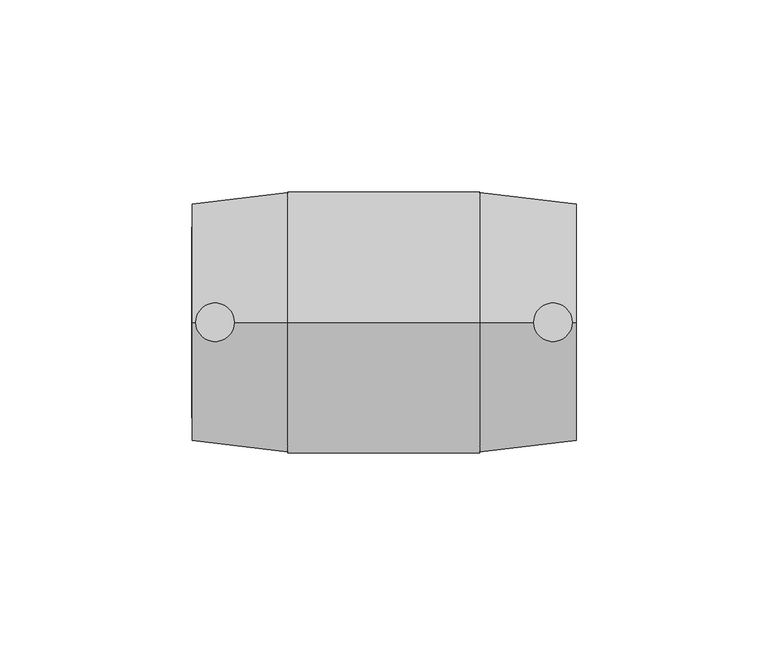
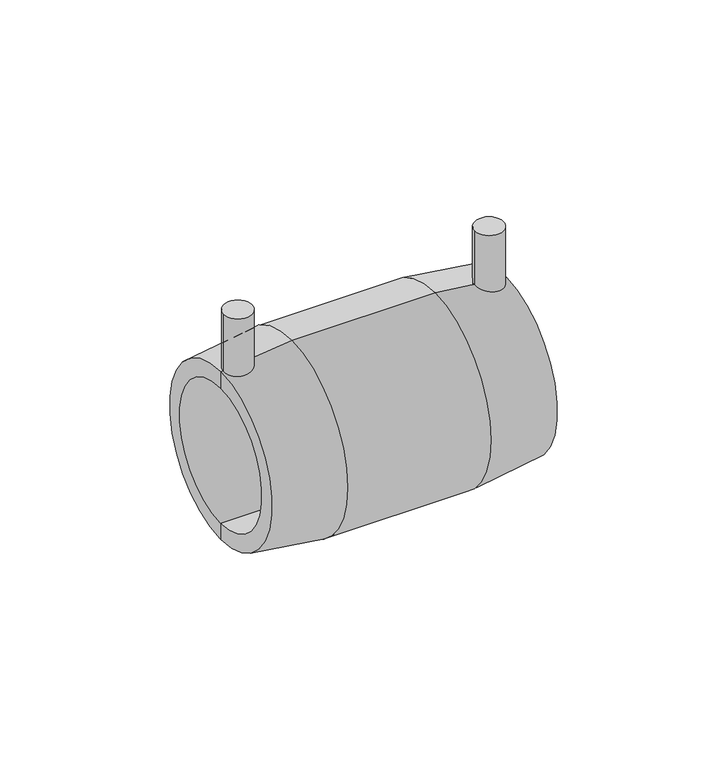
"""IFC4 building model written with IfcOpenShell, lengths in millimetres: pipe fitting geometry, Plumbing_Pipe-Fittings_Plasson_Coupler_450104 : Plumbing_Pipe-Fittings_Plasson_Coupler_450104."""

import ifcopenshell
import ifcopenshell.guid

model = None  # the IFC model being written
_history = None  # IfcOwnerHistory: only IFC2X3 demands one
_inside = {}  # id of a spatial element -> (the spatial element, [elements in it])
_under = {}  # id of a project, library or spatial element -> (it, [spatial elements below it])
_declared = {}  # id of a project -> (the project, [libraries it declares])
_typed = {}  # id of a type object -> (the type object, [elements of that type])
_made_of = {}  # id of a material, layer set ... -> (it, [elements and type objects made of it])


def new_model(schema):
    """Start an empty IFC model of exactly this schema.

    Asked for "IFC4X3", IfcOpenShell would pick the latest addendum, in which some entities
    have other attributes; the version numbers below select the first issue.
    IFC2X3 requires an IfcOwnerHistory on every rooted entity: one is made here for all.
    """
    global model, _history
    if schema == "IFC4X3":
        model = ifcopenshell.file(schema_version=(4, 3, 0, 0))
    else:
        model = ifcopenshell.file(schema=schema)
    _inside.clear()
    _under.clear()
    _declared.clear()
    _typed.clear()
    _made_of.clear()
    _history = None
    if model.schema == "IFC2X3":
        org = make("IfcOrganization", Name="unknown")
        user = make(
            "IfcPersonAndOrganization",
            ThePerson=make("IfcPerson", FamilyName="unknown"),
            TheOrganization=org,
        )
        app = make(
            "IfcApplication",
            ApplicationDeveloper=org,
            Version="unknown",
            ApplicationFullName="unknown",
            ApplicationIdentifier="unknown",
        )
        _history = make(
            "IfcOwnerHistory",
            OwningUser=user,
            OwningApplication=app,
            ChangeAction="ADDED",
            CreationDate=0,
        )
    return model


def make(cls, **values):
    """One entity of the class cls with the attributes given. An attribute that is None is left unset."""
    return model.create_entity(
        cls, **{name: value for name, value in values.items() if value is not None}
    )


def rooted(cls, **values):
    """An entity with a GlobalId (a new one), such as an element, a storey or a relation."""
    return make(cls, GlobalId=ifcopenshell.guid.new(), OwnerHistory=_history, **values)


def si_unit(unit_type, name, prefix=None):
    """IfcSIUnit, for example si_unit("LENGTHUNIT", "METRE", prefix="MILLI")."""
    return make("IfcSIUnit", UnitType=unit_type, Prefix=prefix, Name=name)


def assignment(units):
    """IfcUnitAssignment: the units of a project."""
    return None if units is None else make("IfcUnitAssignment", Units=units)


def point(xyz):
    """IfcCartesianPoint."""
    return None if xyz is None else make("IfcCartesianPoint", Coordinates=xyz)


def direction(xyz):
    """IfcDirection."""
    return None if xyz is None else make("IfcDirection", DirectionRatios=xyz)


def frame(location, z_axis=None, x_axis=None):
    """IfcAxis2Placement3D, a coordinate frame: its origin and axes. An axis left out is left unset."""
    return make(
        "IfcAxis2Placement3D",
        Location=point(location),
        Axis=direction(z_axis),
        RefDirection=direction(x_axis),
    )


def frame_2d(location, x_axis=None):
    """IfcAxis2Placement2D, a coordinate frame in the plane: its origin and x axis."""
    return make(
        "IfcAxis2Placement2D", Location=point(location), RefDirection=direction(x_axis)
    )


def origin():
    """The frame at (0, 0, 0) with its axes left unset."""
    return frame((0.0, 0.0, 0.0))


def place(relative_to, where):
    """IfcLocalPlacement: puts the frame where relative to a parent placement (None: the world)."""
    return make(
        "IfcLocalPlacement", PlacementRelTo=relative_to, RelativePlacement=where
    )


def context(
    kind, dimensions, precision=None, world=None, true_north=None, identifier=None
):
    """IfcGeometricRepresentationContext, for example the 3D "Model" context."""
    return make(
        "IfcGeometricRepresentationContext",
        ContextIdentifier=identifier,
        ContextType=kind,
        CoordinateSpaceDimension=dimensions,
        Precision=precision,
        WorldCoordinateSystem=world,
        TrueNorth=true_north,
    )


def project(units=None, contexts=None):
    """IfcProject with its units and contexts."""
    return rooted(
        "IfcProject",
        Name="project",
        RepresentationContexts=contexts,
        UnitsInContext=assignment(units),
    )


def spatial(cls, under=None, at=None, **own):
    """A site, building, storey or space (cls), placed at a placement, below another one or the project."""
    s = rooted(cls, ObjectPlacement=at, **own)
    if under is not None:
        _under.setdefault(under.id(), (under, []))[1].append(s)
    return s


def polyline(points):
    """IfcPolyline through the points."""
    return make("IfcPolyline", Points=[point(p) for p in points])


def circle_curve(where, radius):
    """IfcCircle in the frame where."""
    return make("IfcCircle", Position=where, Radius=radius)


def trimmed(basis, trim1, trim2, sense, master):
    """IfcTrimmedCurve: the piece of a basis curve between two trims."""
    return make(
        "IfcTrimmedCurve",
        BasisCurve=basis,
        Trim1=trim1,
        Trim2=trim2,
        SenseAgreement=sense,
        MasterRepresentation=master,
    )


def segment(curve, same_sense, transition):
    """IfcCompositeCurveSegment."""
    return make(
        "IfcCompositeCurveSegment",
        Transition=transition,
        SameSense=same_sense,
        ParentCurve=curve,
    )


def composite_curve(segments, self_intersect=None):
    """IfcCompositeCurve: segments joined end to end."""
    return make("IfcCompositeCurve", Segments=segments, SelfIntersect=self_intersect)


def outline(outer, holes=None, kind="AREA"):
    """IfcArbitraryClosedProfileDef: a profile drawn as a closed curve; with holes, ...WithVoids."""
    if holes is None:
        return make("IfcArbitraryClosedProfileDef", ProfileType=kind, OuterCurve=outer)
    return make(
        "IfcArbitraryProfileDefWithVoids",
        ProfileType=kind,
        OuterCurve=outer,
        InnerCurves=holes,
    )


def extrude(swept, where, along, depth):
    """IfcExtrudedAreaSolid: the profile swept, set in the frame where, extruded along a direction by depth."""
    return make(
        "IfcExtrudedAreaSolid",
        SweptArea=swept,
        Position=where,
        ExtrudedDirection=direction(along),
        Depth=depth,
    )


def shape(context_of_items, identifier, shape_type, items):
    """IfcShapeRepresentation: the items that make up one representation, for example the "Body"."""
    return make(
        "IfcShapeRepresentation",
        ContextOfItems=context_of_items,
        RepresentationIdentifier=identifier,
        RepresentationType=shape_type,
        Items=items,
    )


def source(mapping_origin, context_of_items, identifier, shape_type, items):
    """IfcRepresentationMap: a shape defined once, which mapped items show again and again."""
    return make(
        "IfcRepresentationMap",
        MappingOrigin=mapping_origin,
        MappedRepresentation=shape(context_of_items, identifier, shape_type, items),
    )


def transform(
    local_origin,
    x_axis=None,
    y_axis=None,
    z_axis=None,
    scale=None,
    scale2=None,
    scale3=None,
    uniform=True,
):
    """IfcCartesianTransformationOperator3D, or its non-uniform kind. x_axis, y_axis, z_axis: its Axis1, 2, 3."""
    if uniform:
        return make(
            "IfcCartesianTransformationOperator3D",
            Axis1=direction(x_axis),
            Axis2=direction(y_axis),
            LocalOrigin=point(local_origin),
            Scale=scale,
            Axis3=direction(z_axis),
        )
    return make(
        "IfcCartesianTransformationOperator3DnonUniform",
        Axis1=direction(x_axis),
        Axis2=direction(y_axis),
        LocalOrigin=point(local_origin),
        Scale=scale,
        Axis3=direction(z_axis),
        Scale2=scale2,
        Scale3=scale3,
    )


def mapped(mapping_source, mapping_target):
    """IfcMappedItem: shows the shape of a source again, moved by a transform."""
    return make(
        "IfcMappedItem", MappingSource=mapping_source, MappingTarget=mapping_target
    )


def made_of(thing, what):
    """Note that an element or type object is made of a material, layer set ...; save() writes the relation."""
    if what is not None:
        _made_of.setdefault(what.id(), (what, []))[1].append(thing)
    return thing


def element(
    cls,
    number,
    at=None,
    inside=None,
    cuts=None,
    type_object=None,
    material=None,
    context=None,
    identifier="Body",
    shape_type=None,
    held_by="IfcProductDefinitionShape",
    body=None,
    shapes=None,
    **own,
):
    """One element of the class cls, such as IfcWall. Its Tag is "e" and its number.

    at: its placement. inside: the storey or other place that contains it. cuts: it is an
    opening in that element (IfcRelVoidsElement). A single representation is given by context,
    identifier, shape_type and body (its items); several are given by shapes. held_by: the class
    of the entity that holds the representations. save() writes the other relations.
    """
    e = rooted(cls, Tag="e%d" % number, ObjectPlacement=at, **own)
    if body is not None:
        shapes = [shape(context, identifier, shape_type, body)]
    if shapes is not None:
        e.Representation = make(held_by, Representations=shapes)
    if inside is not None:
        _inside.setdefault(inside.id(), (inside, []))[1].append(e)
    if cuts is not None:
        rooted(
            "IfcRelVoidsElement", RelatingBuildingElement=cuts, RelatedOpeningElement=e
        )
    if type_object is not None:
        _typed.setdefault(type_object.id(), (type_object, []))[1].append(e)
    return made_of(e, material)


def aggregate(whole, parts):
    """IfcRelAggregates: a whole, such as a stair, and the parts it consists of."""
    return rooted("IfcRelAggregates", RelatingObject=whole, RelatedObjects=parts)


def save(model, path):
    """Write the relations noted so far, then the file.

    IfcRelAggregates (storeys below a building ...), IfcRelContainedInSpatialStructure (elements
    in a storey), IfcRelDefinesByType, IfcRelAssociatesMaterial and IfcRelDeclares: one each for
    every whole, place, type object, material and project.
    """
    for whole, parts in _under.values():
        aggregate(whole, parts)
    for where, things in _inside.values():
        rooted(
            "IfcRelContainedInSpatialStructure",
            RelatedElements=things,
            RelatingStructure=where,
        )
    for kind, things in _typed.values():
        rooted("IfcRelDefinesByType", RelatedObjects=things, RelatingType=kind)
    for what, things in _made_of.values():
        rooted("IfcRelAssociatesMaterial", RelatedObjects=things, RelatingMaterial=what)
    for by, libraries in _declared.values():
        rooted("IfcRelDeclares", RelatingContext=by, RelatedDefinitions=libraries)
    model.write(path)


def plane_surface(at):
    """IfcPlane: the flat surface through the origin of the frame at, square to its z axis."""
    return make("IfcPlane", Position=at)


def cylinder_surface(at, radius):
    """IfcCylindricalSurface: all points at the distance radius from the z axis of the frame at."""
    return make("IfcCylindricalSurface", Position=at, Radius=radius)


def revolved_surface(curve, axis_point, axis_direction):
    """IfcSurfaceOfRevolution: the curve turned about the line through axis_point along axis_direction."""
    return make(
        "IfcSurfaceOfRevolution",
        SweptCurve=make("IfcArbitraryOpenProfileDef", ProfileType="CURVE", Curve=curve),
        AxisPosition=make("IfcAxis1Placement", Location=point(axis_point), Axis=direction(axis_direction)),
    )


def advanced_brep(points, edges, surfaces, faces):
    """IfcAdvancedBrep: a solid bounded by faces that lie on surfaces and meet in shared edges.

    An edge is (start, end): straight between two places in points (the first is 0);
    or (start, end, curve); or (start, end, curve, False) where it runs against its curve.
    A face is (place in surfaces, loops), or (place, loops, False) where it looks against
    its surface's normal. A loop lists edges by number (the first is 1), with a minus sign
    where the edge is run from its end to its start. The first loop is the outer one.
    """
    corners = [point(p) for p in points]
    vertices = [make("IfcVertexPoint", VertexGeometry=c) for c in corners]
    made = []
    for start, end, *more in edges:
        made.append(
            make(
                "IfcEdgeCurve",
                EdgeStart=vertices[start],
                EdgeEnd=vertices[end],
                EdgeGeometry=more[0] if more else make("IfcPolyline", Points=[corners[start], corners[end]]),
                SameSense=more[1] if len(more) > 1 else True,
            )
        )
    hull = []
    for where, loops, *sense in faces:
        bounds = []
        for j, loop in enumerate(loops):
            ring = [make("IfcOrientedEdge", EdgeElement=made[abs(k) - 1], Orientation=k > 0) for k in loop]
            bounds.append(
                make(
                    "IfcFaceOuterBound" if j == 0 else "IfcFaceBound",
                    Bound=make("IfcEdgeLoop", EdgeList=ring),
                    Orientation=True,
                )
            )
        hull.append(make("IfcAdvancedFace", Bounds=bounds, FaceSurface=surfaces[where], SameSense=sense[0] if sense else True))
    return make("IfcAdvancedBrep", Outer=make("IfcClosedShell", CfsFaces=hull))


def pipe_fitting_ede6b6a5(model_context):
    return source(origin(), model_context, "Body", "SolidModel", [
        extrude(outline(composite_curve([segment(trimmed(circle_curve(frame_2d((-44.0, 0.0)), 5.0), [point((-49.0, 0.0))], [point((-39.0, 0.0))], False, "CARTESIAN"), True, "CONTINUOUS"), segment(trimmed(circle_curve(frame_2d((-44.0, 0.0)), 5.0), [point((-39.0, 0.0))], [point((-49.0, 0.0))], False, "CARTESIAN"), True, "CONTINUOUS")], self_intersect=False)), frame((0.0, 0.0, 29.5), z_axis=(0.0, 0.0, 1.0), x_axis=(1.0, 0.0, 0.0)), (0.0, 0.0, 1.0), 22.5),
        extrude(outline(composite_curve([segment(trimmed(circle_curve(frame_2d((44.0, 0.0)), 5.0), [point((39.0, 0.0))], [point((49.0, 0.0))], False, "CARTESIAN"), True, "CONTINUOUS"), segment(trimmed(circle_curve(frame_2d((44.0, 0.0)), 5.0), [point((49.0, 0.0))], [point((39.0, 0.0))], False, "CARTESIAN"), True, "CONTINUOUS")], self_intersect=False)), frame((0.0, 0.0, 29.5), z_axis=(0.0, 0.0, 1.0), x_axis=(1.0, 0.0, 0.0)), (0.0, 0.0, 1.0), 22.5),
        advanced_brep(
        [(-1.0, 0.0, -25.0), (-1.0, 0.0, 25.0), (-50.0, 0.0, 25.0), (-50.0, 0.0, -25.0), (50.0, 0.0, -31.0), (50.0, 0.0, 31.0), (50.0, 0.0, 25.0), (50.0, 0.0, -25.0), (-25.0, 0.0, -34.0), (-25.0, 0.0, 34.0), (25.0, 0.0, 34.0), (25.0, 0.0, -34.0), (-50.0, 0.0, 31.0), (-50.0, 0.0, -31.0), (-1.0, 0.0, -22.0), (-1.0, 0.0, 22.0), (1.0, 0.0, -22.0), (1.0, 0.0, 22.0), (1.0, 0.0, -25.0), (1.0, 0.0, 25.0)],
        [
            (0, 1, circle_curve(frame((-1.0, 0.0, 0.0), z_axis=(1.0, 0.0, 0.0), x_axis=(0.0, 0.0, 1.0)), 25.0)),
            (1, 2),
            (2, 3, circle_curve(frame((-50.0, 0.0, 0.0), z_axis=(-1.0, 0.0, 0.0), x_axis=(0.0, 0.0, 1.0)), 25.0)),
            (3, 0),
            (1, 0, circle_curve(frame((-1.0, 0.0, 0.0), z_axis=(1.0, 0.0, 0.0), x_axis=(0.0, 0.0, 1.0)), 25.0)),
            (3, 2, circle_curve(frame((-50.0, 0.0, 0.0), z_axis=(-1.0, 0.0, 0.0), x_axis=(0.0, 0.0, 1.0)), 25.0)),
            (4, 5, circle_curve(frame((50.0, 0.0, 0.0), z_axis=(1.0, 0.0, 0.0), x_axis=(0.0, 0.0, 1.0)), 31.0)),
            (5, 6),
            (6, 7, circle_curve(frame((50.0, 0.0, 0.0), z_axis=(-1.0, 0.0, 0.0), x_axis=(0.0, 0.0, 1.0)), 25.0)),
            (7, 4),
            (5, 4, circle_curve(frame((50.0, 0.0, 0.0), z_axis=(1.0, 0.0, 0.0), x_axis=(0.0, 0.0, 1.0)), 31.0)),
            (7, 6, circle_curve(frame((50.0, 0.0, 0.0), z_axis=(-1.0, 0.0, 0.0), x_axis=(0.0, 0.0, 1.0)), 25.0)),
            (8, 9, circle_curve(frame((-25.0, 0.0, 0.0), z_axis=(1.0, 0.0, 0.0), x_axis=(0.0, 0.0, 1.0)), 34.0)),
            (9, 10),
            (10, 11, circle_curve(frame((25.0, 0.0, 0.0), z_axis=(-1.0, 0.0, 0.0), x_axis=(0.0, 0.0, 1.0)), 34.0)),
            (11, 8),
            (9, 8, circle_curve(frame((-25.0, 0.0, 0.0), z_axis=(1.0, 0.0, 0.0), x_axis=(0.0, 0.0, 1.0)), 34.0)),
            (11, 10, circle_curve(frame((25.0, 0.0, 0.0), z_axis=(-1.0, 0.0, 0.0), x_axis=(0.0, 0.0, 1.0)), 34.0)),
            (2, 12),
            (12, 13, circle_curve(frame((-50.0, 0.0, 0.0), z_axis=(-1.0, 0.0, 0.0), x_axis=(0.0, 0.0, 1.0)), 31.0)),
            (13, 3),
            (13, 12, circle_curve(frame((-50.0, 0.0, 0.0), z_axis=(-1.0, 0.0, 0.0), x_axis=(0.0, 0.0, 1.0)), 31.0)),
            (10, 5),
            (4, 11),
            (12, 9),
            (8, 13),
            (14, 15, circle_curve(frame((-1.0, 0.0, 0.0), z_axis=(1.0, 0.0, 0.0), x_axis=(0.0, 0.0, 1.0)), 22.0)),
            (15, 1),
            (0, 14),
            (15, 14, circle_curve(frame((-1.0, 0.0, 0.0), z_axis=(1.0, 0.0, 0.0), x_axis=(0.0, 0.0, 1.0)), 22.0)),
            (16, 17, circle_curve(frame((1.0, 0.0, 0.0), z_axis=(1.0, 0.0, 0.0), x_axis=(0.0, 0.0, 1.0)), 22.0)),
            (17, 15),
            (14, 16),
            (17, 16, circle_curve(frame((1.0, 0.0, 0.0), z_axis=(1.0, 0.0, 0.0), x_axis=(0.0, 0.0, 1.0)), 22.0)),
            (18, 19, circle_curve(frame((1.0, 0.0, 0.0), z_axis=(1.0, 0.0, 0.0), x_axis=(0.0, 0.0, 1.0)), 25.0)),
            (19, 17),
            (16, 18),
            (19, 18, circle_curve(frame((1.0, 0.0, 0.0), z_axis=(1.0, 0.0, 0.0), x_axis=(0.0, 0.0, 1.0)), 25.0)),
            (6, 19),
            (18, 7),
        ],
        [
            revolved_surface(polyline([(-50.0, 0.0, 25.0), (-1.0, 0.0, 25.0)]), (-50.0, 0.0, 0.0), (-1.0, 0.0, 0.0)),
            plane_surface(frame((50.0, 0.0, 0.0), z_axis=(1.0, 0.0, 0.0), x_axis=(0.0, 0.0, 1.0))),
            cylinder_surface(frame((-50.0, 0.0, 0.0), z_axis=(-1.0, 0.0, 0.0), x_axis=(0.0, 0.0, 1.0)), 34.0),
            plane_surface(frame((-50.0, 0.0, 0.0), z_axis=(-1.0, 0.0, 0.0), x_axis=(0.0, 0.0, 1.0))),
            revolved_surface(polyline([(50.0, 0.0, 31.0), (25.0, 0.0, 34.0)]), (-50.0, 0.0, 0.0), (-1.0, 0.0, 0.0)),
            revolved_surface(polyline([(-25.0, 0.0, 34.0), (-50.0, 0.0, 31.0)]), (-50.0, 0.0, 0.0), (-1.0, 0.0, 0.0)),
            plane_surface(frame((-1.0, 0.0, 0.0), z_axis=(-1.0, 0.0, 0.0), x_axis=(0.0, 0.0, 1.0))),
            revolved_surface(polyline([(-1.0, 0.0, 22.0), (1.0, 0.0, 22.0)]), (-50.0, 0.0, 0.0), (-1.0, 0.0, 0.0)),
            plane_surface(frame((1.0, 0.0, 0.0), z_axis=(1.0, 0.0, 0.0), x_axis=(0.0, 0.0, 1.0))),
            revolved_surface(polyline([(1.0, 0.0, 25.0), (50.0, 0.0, 25.0)]), (-50.0, 0.0, 0.0), (-1.0, 0.0, 0.0)),
        ],
        [
            (0, [[1, 2, 3, 4]]),
            (0, [[5, -4, 6, -2]]),
            (1, [[7, 8, 9, 10]]),
            (1, [[11, -10, 12, -8]]),
            (2, [[13, 14, 15, 16]]),
            (2, [[17, -16, 18, -14]]),
            (3, [[-3, 19, 20, 21]]),
            (3, [[-6, -21, 22, -19]]),
            (4, [[-15, 23, -7, 24]]),
            (4, [[-18, -24, -11, -23]]),
            (5, [[-20, 25, -13, 26]]),
            (5, [[-22, -26, -17, -25]]),
            (6, [[27, 28, -1, 29]]),
            (6, [[30, -29, -5, -28]]),
            (7, [[31, 32, -27, 33]]),
            (7, [[34, -33, -30, -32]]),
            (8, [[35, 36, -31, 37]]),
            (8, [[38, -37, -34, -36]]),
            (9, [[-9, 39, -35, 40]]),
            (9, [[-12, -40, -38, -39]]),
        ],
    ),
    ])


if __name__ == "__main__":
    model = new_model("IFC4")
    model_context = context("Model", 3, world=origin())
    ifc_project = project(units=[si_unit("LENGTHUNIT", "METRE", prefix="MILLI")], contexts=[model_context])
    site = spatial("IfcSite", under=ifc_project)
    building = spatial("IfcBuilding", under=site)
    placement = place(None, origin())
    pipe_fitting_shape = pipe_fitting_ede6b6a5(model_context)
    element("IfcPipeFitting", 1, ObjectType="Plumbing_Pipe-Fittings_Plasson_Coupler_450104 : Plumbing_Pipe-Fittings_Plasson_Coupler_450104", at=placement, inside=building, context=model_context, shape_type="MappedRepresentation", body=[
        mapped(pipe_fitting_shape, transform((0.0, 0.0, 0.0), x_axis=(1.0, 0.0, 0.0), y_axis=(0.0, 1.0, 0.0), z_axis=(0.0, 0.0, 1.0))),
    ])
    save(model, "model.ifc")
